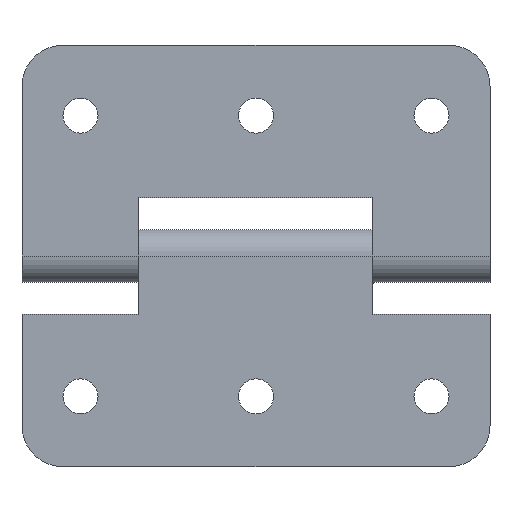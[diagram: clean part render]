
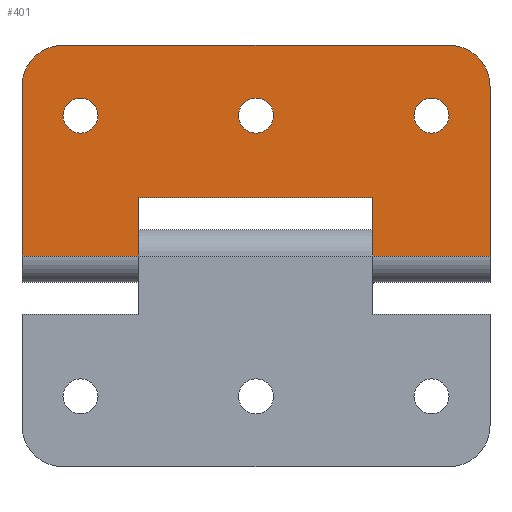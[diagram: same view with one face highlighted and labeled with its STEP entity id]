
A CAD part, left-side view. The second image highlights one B-rep face of the part: STEP entity #401.
In plain terms, the highlighted planar face has unit normal (-1, 0, 0) as drawn and (0, 0, -1) by its records, which use the part's own axes.
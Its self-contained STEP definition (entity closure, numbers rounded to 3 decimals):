
#4 = EDGE_CURVE ( 'NONE', #18, #90, #443, .T. ) ;
#18 = VERTEX_POINT ( 'NONE', #586 ) ;
#20 = ORIENTED_EDGE ( 'NONE', *, *, #911, .F. ) ;
#27 = EDGE_CURVE ( 'NONE', #90, #18, #713, .T. ) ;
#28 = VERTEX_POINT ( 'NONE', #718 ) ;
#29 = ORIENTED_EDGE ( 'NONE', *, *, #37, .F. ) ;
#37 = EDGE_CURVE ( 'NONE', #327, #1152, #798, .T. ) ;
#66 = EDGE_CURVE ( 'NONE', #325, #28, #1004, .T. ) ;
#80 = VERTEX_POINT ( 'NONE', #1070 ) ;
#81 = EDGE_CURVE ( 'NONE', #80, #296, #1071, .T. ) ;
#84 = EDGE_CURVE ( 'NONE', #390, #391, #1081, .T. ) ;
#90 = VERTEX_POINT ( 'NONE', #1118 ) ;
#105 = ORIENTED_EDGE ( 'NONE', *, *, #138, .F. ) ;
#112 = VERTEX_POINT ( 'NONE', #1240 ) ;
#120 = ORIENTED_EDGE ( 'NONE', *, *, #416, .F. ) ;
#122 = EDGE_CURVE ( 'NONE', #1951, #112, #1394, .T. ) ;
#127 = ORIENTED_EDGE ( 'NONE', *, *, #359, .F. ) ;
#138 = EDGE_CURVE ( 'NONE', #1152, #168, #930, .T. ) ;
#153 = ORIENTED_EDGE ( 'NONE', *, *, #66, .F. ) ;
#168 = VERTEX_POINT ( 'NONE', #559 ) ;
#175 = VERTEX_POINT ( 'NONE', #574 ) ;
#180 = EDGE_LOOP ( 'NONE', ( #317, #945 ) ) ;
#189 = EDGE_CURVE ( 'NONE', #296, #1923, #642, .T. ) ;
#219 = EDGE_LOOP ( 'NONE', ( #378, #402 ) ) ;
#225 = EDGE_CURVE ( 'NONE', #1923, #1951, #806, .T. ) ;
#257 = ORIENTED_EDGE ( 'NONE', *, *, #81, .F. ) ;
#259 = ORIENTED_EDGE ( 'NONE', *, *, #84, .F. ) ;
#296 = VERTEX_POINT ( 'NONE', #1103 ) ;
#305 = ORIENTED_EDGE ( 'NONE', *, *, #189, .F. ) ;
#317 = ORIENTED_EDGE ( 'NONE', *, *, #4, .F. ) ;
#325 = VERTEX_POINT ( 'NONE', #1210 ) ;
#327 = VERTEX_POINT ( 'NONE', #1222 ) ;
#351 = ORIENTED_EDGE ( 'NONE', *, *, #122, .F. ) ;
#355 = EDGE_CURVE ( 'NONE', #28, #325, #1325, .T. ) ;
#359 = EDGE_CURVE ( 'NONE', #391, #327, #1343, .T. ) ;
#367 = EDGE_LOOP ( 'NONE', ( #305, #257, #20, #105, #29, #127, #259, #120, #351, #827 ) ) ;
#378 = ORIENTED_EDGE ( 'NONE', *, *, #408, .F. ) ;
#390 = VERTEX_POINT ( 'NONE', #1440 ) ;
#391 = VERTEX_POINT ( 'NONE', #1441 ) ;
#401 = ADVANCED_FACE ( 'NONE', ( #905, #906, #907, #908 ), #909, .F. ) ;
#402 = ORIENTED_EDGE ( 'NONE', *, *, #1929, .F. ) ;
#408 = EDGE_CURVE ( 'NONE', #1838, #175, #948, .T. ) ;
#416 = EDGE_CURVE ( 'NONE', #112, #390, #971, .T. ) ;
#443 = CIRCLE ( 'NONE', #444, 1.5 ) ;
#444 = AXIS2_PLACEMENT_3D ( 'NONE', #445, #448, #449 ) ;
#445 = CARTESIAN_POINT ( 'NONE',  ( -12., 0., -2.25 ) ) ;
#448 = DIRECTION ( 'NONE',  ( 0., 0., -1. ) ) ;
#449 = DIRECTION ( 'NONE',  ( -1., 0., 0. ) ) ;
#559 = CARTESIAN_POINT ( 'NONE',  ( -14.5, 20., -2.25 ) ) ;
#574 = CARTESIAN_POINT ( 'NONE',  ( -10.5, 15., -2.25 ) ) ;
#586 = CARTESIAN_POINT ( 'NONE',  ( -13.5, 0., -2.25 ) ) ;
#642 = CIRCLE ( 'NONE', #643, 3.5 ) ;
#643 = AXIS2_PLACEMENT_3D ( 'NONE', #644, #645, #646 ) ;
#644 = CARTESIAN_POINT ( 'NONE',  ( -14.5, -16.5, -2.25 ) ) ;
#645 = DIRECTION ( 'NONE',  ( 0., 0., 1. ) ) ;
#646 = DIRECTION ( 'NONE',  ( 1., 0., 0. ) ) ;
#713 = CIRCLE ( 'NONE', #714, 1.5 ) ;
#714 = AXIS2_PLACEMENT_3D ( 'NONE', #715, #716, #717 ) ;
#715 = CARTESIAN_POINT ( 'NONE',  ( -12., 0., -2.25 ) ) ;
#716 = DIRECTION ( 'NONE',  ( 0., 0., -1. ) ) ;
#717 = DIRECTION ( 'NONE',  ( -1., 0., 0. ) ) ;
#718 = CARTESIAN_POINT ( 'NONE',  ( -10.5, -15., -2.25 ) ) ;
#730 = CIRCLE ( 'NONE', #731, 3.5 ) ;
#731 = AXIS2_PLACEMENT_3D ( 'NONE', #732, #733, #734 ) ;
#732 = CARTESIAN_POINT ( 'NONE',  ( -14.5, 16.5, -2.25 ) ) ;
#733 = DIRECTION ( 'NONE',  ( 0., 0., 1. ) ) ;
#734 = DIRECTION ( 'NONE',  ( -1., 0., 0. ) ) ;
#798 = LINE ( 'NONE', #799, #800 ) ;
#799 = CARTESIAN_POINT ( 'NONE',  ( 0., 20., -2.25 ) ) ;
#800 = VECTOR ( 'NONE', #801, 1000. ) ;
#801 = DIRECTION ( 'NONE',  ( 0., 1., 0. ) ) ;
#806 = LINE ( 'NONE', #807, #810 ) ;
#807 = CARTESIAN_POINT ( 'NONE',  ( -18., -20., -2.25 ) ) ;
#810 = VECTOR ( 'NONE', #811, 1000. ) ;
#811 = DIRECTION ( 'NONE',  ( 1., 0., 0. ) ) ;
#827 = ORIENTED_EDGE ( 'NONE', *, *, #225, .F. ) ;
#841 = CARTESIAN_POINT ( 'NONE',  ( 0., 20., -2.25 ) ) ;
#905 = FACE_OUTER_BOUND ( 'NONE', #367, .T. ) ;
#906 = FACE_BOUND ( 'NONE', #219, .T. ) ;
#907 = FACE_BOUND ( 'NONE', #180, .T. ) ;
#908 = FACE_BOUND ( 'NONE', #1649, .T. ) ;
#909 = PLANE ( 'NONE',  #910 ) ;
#910 = AXIS2_PLACEMENT_3D ( 'NONE', #912, #913, #914 ) ;
#911 = EDGE_CURVE ( 'NONE', #168, #80, #730, .T. ) ;
#912 = CARTESIAN_POINT ( 'NONE',  ( -18., 20., -2.25 ) ) ;
#913 = DIRECTION ( 'NONE',  ( 0., 0., 1. ) ) ;
#914 = DIRECTION ( 'NONE',  ( 1., 0., 0. ) ) ;
#930 = LINE ( 'NONE', #931, #932 ) ;
#931 = CARTESIAN_POINT ( 'NONE',  ( -18., 20., -2.25 ) ) ;
#932 = VECTOR ( 'NONE', #933, 1000. ) ;
#933 = DIRECTION ( 'NONE',  ( -1., 0., 0. ) ) ;
#939 = CARTESIAN_POINT ( 'NONE',  ( 0., -20., -2.25 ) ) ;
#945 = ORIENTED_EDGE ( 'NONE', *, *, #27, .F. ) ;
#948 = CIRCLE ( 'NONE', #949, 1.5 ) ;
#949 = AXIS2_PLACEMENT_3D ( 'NONE', #950, #951, #952 ) ;
#950 = CARTESIAN_POINT ( 'NONE',  ( -12., 15., -2.25 ) ) ;
#951 = DIRECTION ( 'NONE',  ( 0., 0., -1. ) ) ;
#952 = DIRECTION ( 'NONE',  ( -1., 0., 0. ) ) ;
#971 = LINE ( 'NONE', #972, #973 ) ;
#972 = CARTESIAN_POINT ( 'NONE',  ( -18., -10., -2.25 ) ) ;
#973 = VECTOR ( 'NONE', #974, 1000. ) ;
#974 = DIRECTION ( 'NONE',  ( -1., 0., 0. ) ) ;
#1004 = CIRCLE ( 'NONE', #1005, 1.5 ) ;
#1005 = AXIS2_PLACEMENT_3D ( 'NONE', #1006, #1007, #1008 ) ;
#1006 = CARTESIAN_POINT ( 'NONE',  ( -12., -15., -2.25 ) ) ;
#1007 = DIRECTION ( 'NONE',  ( 0., 0., -1. ) ) ;
#1008 = DIRECTION ( 'NONE',  ( -1., 0., 0. ) ) ;
#1070 = CARTESIAN_POINT ( 'NONE',  ( -18., 16.5, -2.25 ) ) ;
#1071 = LINE ( 'NONE', #1072, #1073 ) ;
#1072 = CARTESIAN_POINT ( 'NONE',  ( -18., 20., -2.25 ) ) ;
#1073 = VECTOR ( 'NONE', #1074, 1000. ) ;
#1074 = DIRECTION ( 'NONE',  ( 0., -1., 0. ) ) ;
#1081 = LINE ( 'NONE', #1082, #1084 ) ;
#1082 = CARTESIAN_POINT ( 'NONE',  ( -5., 20., -2.25 ) ) ;
#1084 = VECTOR ( 'NONE', #1085, 1000. ) ;
#1085 = DIRECTION ( 'NONE',  ( 0., 1., 0. ) ) ;
#1103 = CARTESIAN_POINT ( 'NONE',  ( -18., -16.5, -2.25 ) ) ;
#1118 = CARTESIAN_POINT ( 'NONE',  ( -10.5, 0., -2.25 ) ) ;
#1152 = VERTEX_POINT ( 'NONE', #841 ) ;
#1183 = CARTESIAN_POINT ( 'NONE',  ( -13.5, 15., -2.25 ) ) ;
#1210 = CARTESIAN_POINT ( 'NONE',  ( -13.5, -15., -2.25 ) ) ;
#1222 = CARTESIAN_POINT ( 'NONE',  ( 0., 10., -2.25 ) ) ;
#1240 = CARTESIAN_POINT ( 'NONE',  ( 0., -10., -2.25 ) ) ;
#1267 = CARTESIAN_POINT ( 'NONE',  ( -14.5, -20., -2.25 ) ) ;
#1286 = CIRCLE ( 'NONE', #1287, 1.5 ) ;
#1287 = AXIS2_PLACEMENT_3D ( 'NONE', #1290, #1291, #1292 ) ;
#1290 = CARTESIAN_POINT ( 'NONE',  ( -12., 15., -2.25 ) ) ;
#1291 = DIRECTION ( 'NONE',  ( 0., 0., -1. ) ) ;
#1292 = DIRECTION ( 'NONE',  ( -1., 0., 0. ) ) ;
#1325 = CIRCLE ( 'NONE', #1326, 1.5 ) ;
#1326 = AXIS2_PLACEMENT_3D ( 'NONE', #1327, #1328, #1329 ) ;
#1327 = CARTESIAN_POINT ( 'NONE',  ( -12., -15., -2.25 ) ) ;
#1328 = DIRECTION ( 'NONE',  ( 0., 0., -1. ) ) ;
#1329 = DIRECTION ( 'NONE',  ( -1., 0., 0. ) ) ;
#1343 = LINE ( 'NONE', #1344, #1345 ) ;
#1344 = CARTESIAN_POINT ( 'NONE',  ( -18., 10., -2.25 ) ) ;
#1345 = VECTOR ( 'NONE', #1346, 1000. ) ;
#1346 = DIRECTION ( 'NONE',  ( 1., 0., 0. ) ) ;
#1394 = LINE ( 'NONE', #1395, #1396 ) ;
#1395 = CARTESIAN_POINT ( 'NONE',  ( 0., 20., -2.25 ) ) ;
#1396 = VECTOR ( 'NONE', #1397, 1000. ) ;
#1397 = DIRECTION ( 'NONE',  ( 0., 1., 0. ) ) ;
#1440 = CARTESIAN_POINT ( 'NONE',  ( -5., -10., -2.25 ) ) ;
#1441 = CARTESIAN_POINT ( 'NONE',  ( -5., 10., -2.25 ) ) ;
#1649 = EDGE_LOOP ( 'NONE', ( #153, #1962 ) ) ;
#1838 = VERTEX_POINT ( 'NONE', #1183 ) ;
#1923 = VERTEX_POINT ( 'NONE', #1267 ) ;
#1929 = EDGE_CURVE ( 'NONE', #175, #1838, #1286, .T. ) ;
#1951 = VERTEX_POINT ( 'NONE', #939 ) ;
#1962 = ORIENTED_EDGE ( 'NONE', *, *, #355, .F. ) ;
